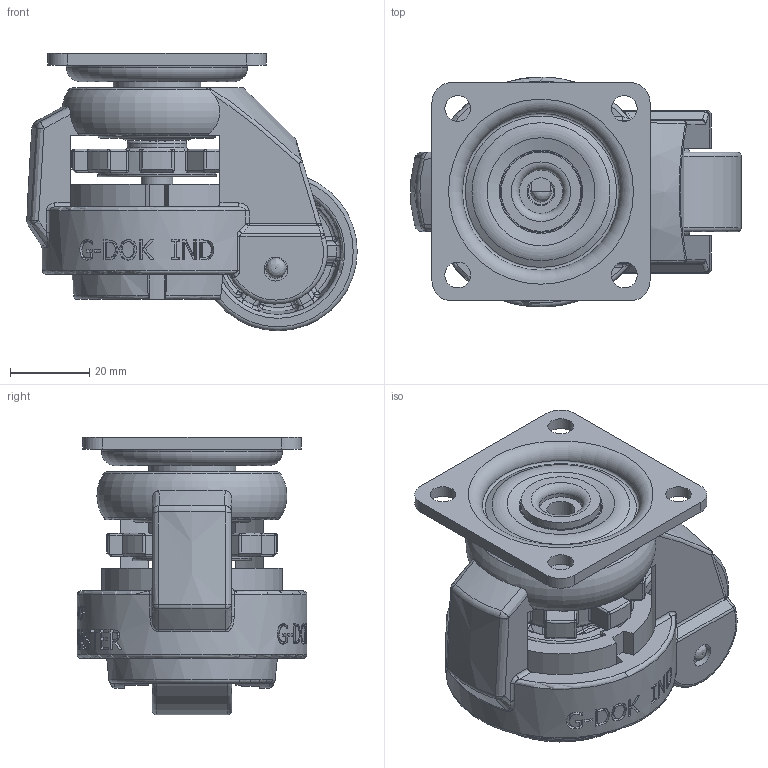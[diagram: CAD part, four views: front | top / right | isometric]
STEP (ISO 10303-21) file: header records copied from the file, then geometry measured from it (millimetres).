
FILE_DESCRIPTION(/* description */ (''),/* implementation_level */ '2;1');
FILE_NAME(/* name */ '32A01_1,5_F.stp',/* time_stamp */ '2022-09-05T08:34:15+08:00',/* author */ (''),/* organization */ (''),/* preprocessor_version */ 'ST-DEVELOPER v14',/* originating_system */ 'SIEMENS PLM Software NX 8.0',/* authorisation */ '');
FILE_SCHEMA (('AUTOMOTIVE_DESIGN { 1 0 10303 214 3 1 1 1 }'));
Products named in the file (1): 32A01_1,5_F
Bounding box: 83.33 x 58 x 70 mm (x, y, z)
Volume: 118721.3 mm3; surface area: 50749.9 mm2
Topology: 1 solids, 1 shells, 1271 faces, 3408 edges, 2165 vertices
Faces by surface type: plane 375, bspline 330, cylinder 287, torus 153, sphere 78, cone 48
Full cylindrical faces by diameter (mm): 2.6 x2, 5 x1, 6 x2, 6.4 x2, 6.5 x4, 7 x2, 8 x2, 11 x1, 15 x1, 18 x2, 20 x1, 22 x2, 23.5 x1, 30 x2, 32 x1, 40 x1
Entity records: 70365 total; most frequent: CARTESIAN_POINT 41622, ORIENTED_EDGE 6544, DIRECTION 5055, EDGE_CURVE 3272, VERTEX_POINT 2128, AXIS2_PLACEMENT_3D 1988, EDGE_LOOP 1423, ADVANCED_FACE 1271
